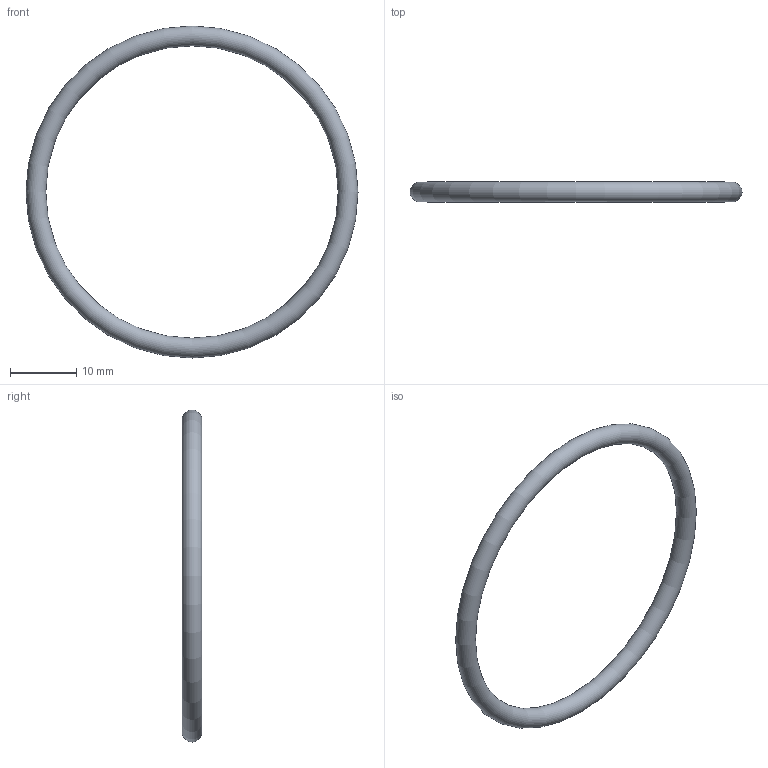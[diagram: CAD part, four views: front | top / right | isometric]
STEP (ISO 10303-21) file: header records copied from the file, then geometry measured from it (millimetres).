
FILE_DESCRIPTION( ( 'STEP AP203' ), '1' );
FILE_NAME( 'C:/Temp/Ganter_Step_05_03_2020/data/3_5/or638/O-Ring OR638-44.20-3.00-70.stp', '2020-03-12T13:44:31', ( 'License CC BY-ND 4.0' ), ( 'CADENAS' ), ' ', 'PARTsolutions', ' ' );
FILE_SCHEMA( ( 'CONFIG_CONTROL_DESIGN' ) );
Length unit declared in the file: millimetre
Products named in the file (1): _O-Ring OR638-44.20-3.00-70
Bounding box: 50.2 x 3 x 50.2 mm (x, y, z)
Volume: 1048.2 mm3; surface area: 1397.5 mm2
Topology: 1 solids, 1 shells, 1 faces, 2 edges, 1 vertices
Faces by surface type: torus 1
Entity records: 62 total; most frequent: CC_DESIGN_PERSON_AND_ORGANIZATION_ASSIGNMENT 5, PERSON_AND_ORGANIZATION_ROLE 4, DIRECTION 4, CARTESIAN_POINT 3, DATE_TIME_ROLE 2, CC_DESIGN_DATE_AND_TIME_ASSIGNMENT 2, AXIS2_PLACEMENT_3D 2, DIMENSIONAL_EXPONENTS 2
